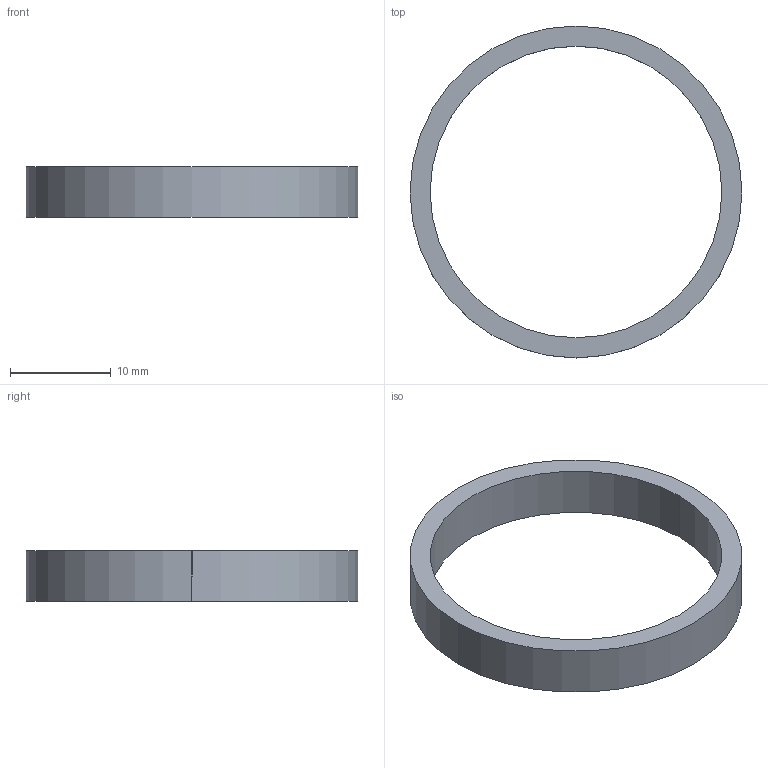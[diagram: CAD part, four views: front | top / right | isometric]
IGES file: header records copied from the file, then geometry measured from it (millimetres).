
Global section: file name: C:\Documents and Settings\Administrator\Desktop\Transfer Temp\lowspeedring.igs; native system: AutoDesk Inventor R2.0 ; preprocessor: AutoDesk Inventor Iges Exporter R2.0; author: No Author specified; organization: No Organization specified; date: 20011230.150931; units: millimetre
Bounding box: 33 x 33 x 5 mm (x, y, z)
Surface area: 1363.5 mm2 (no closed solid volume)
Topology: 0 solids, 0 shells, 6 faces, 24 edges, 24 vertices
Faces by surface type: revolution 4, bspline 2
